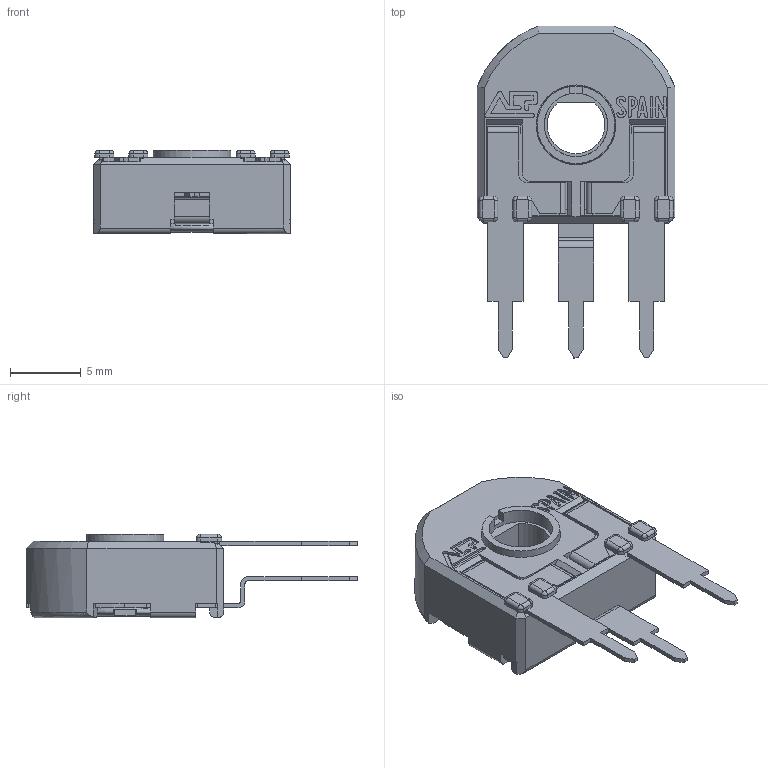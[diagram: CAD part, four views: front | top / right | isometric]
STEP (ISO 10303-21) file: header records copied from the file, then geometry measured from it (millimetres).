
FILE_DESCRIPTION(/* description */ (''),/* implementation_level */ '2;1');
FILE_NAME(/* name */ 'C:\Users\CEM\Desktop\ENVIAR\TRANSICION 3D CATALOGOS\CAR14DHA2,5.stp',/* time_stamp */ '2025-09-22T09:50:10+02:00',/* author */ ('CEM'),/* organization */ (''),/* preprocessor_version */ 'ST-DEVELOPER v17',/* originating_system */ 'Autodesk Inventor 2018',/* authorisation */ '');
FILE_SCHEMA (('AUTOMOTIVE_DESIGN { 1 0 10303 214 3 1 1 }'));
Length unit declared in the file: millimetre
Products named in the file (1): CAR14DHA2,5
Bounding box: 14 x 23.5 x 5.9 mm (x, y, z)
Volume: 547.1 mm3; surface area: 1567.1 mm2
Topology: 1 solids, 1 shells, 575 faces, 1676 edges, 1073 vertices
Faces by surface type: plane 393, cylinder 139, bspline 20, cone 14, torus 9
Full cylindrical faces by diameter (mm): 1.2 x2, 4.5 x1, 5.5 x1, 5.65 x1, 6.88 x1
Entity records: 19716 total; most frequent: CARTESIAN_POINT 3649, ORIENTED_EDGE 3352, DIRECTION 3149, EDGE_CURVE 1676, LINE 1239, VECTOR 1239, VERTEX_POINT 1073, AXIS2_PLACEMENT_3D 955
